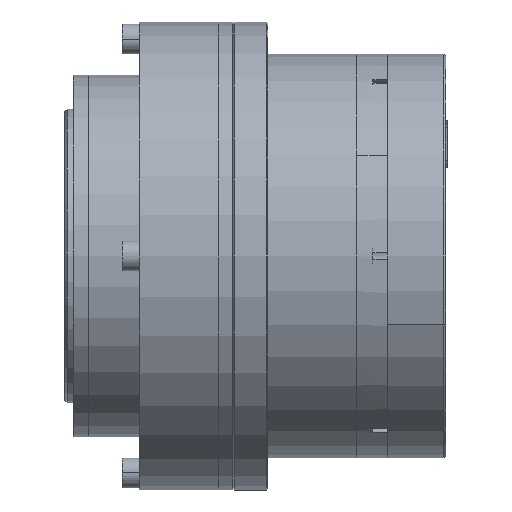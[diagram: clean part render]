
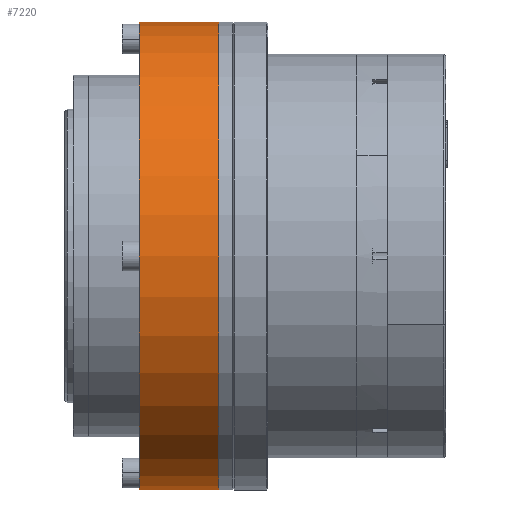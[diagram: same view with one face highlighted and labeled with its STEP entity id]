
A CAD part, left-side view. The second image highlights one B-rep face of the part: STEP entity #7220.
In plain terms, the highlighted cylindrical face has radius 55 mm (diameter 110 mm), a partial arc.
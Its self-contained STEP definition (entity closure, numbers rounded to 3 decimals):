
#303 = LINE ( 'NONE', #12526, #9774 ) ;
#1440 = VERTEX_POINT ( 'NONE', #4036 ) ;
#1902 = CARTESIAN_POINT ( 'NONE',  ( 0., 3.3, 0. ) ) ;
#2875 = VERTEX_POINT ( 'NONE', #16663 ) ;
#3567 = DIRECTION ( 'NONE',  ( 0., -1., 0. ) ) ;
#3738 = LINE ( 'NONE', #10111, #14930 ) ;
#4036 = CARTESIAN_POINT ( 'NONE',  ( 0., 22., -55. ) ) ;
#4870 = EDGE_CURVE ( 'NONE', #19630, #22094, #303, .T. ) ;
#5115 = CARTESIAN_POINT ( 'NONE',  ( 0., 22., 55. ) ) ;
#5122 = AXIS2_PLACEMENT_3D ( 'NONE', #11203, #5231, #13696 ) ;
#5231 = DIRECTION ( 'NONE',  ( 0., -1., 0. ) ) ;
#6079 = CARTESIAN_POINT ( 'NONE',  ( 0., 22., 0. ) ) ;
#7220 = ADVANCED_FACE ( 'NONE', ( #11751 ), #8982, .T. ) ;
#8982 = CYLINDRICAL_SURFACE ( 'NONE', #5122, 55. ) ;
#9774 = VECTOR ( 'NONE', #13072, 1000. ) ;
#9836 = CARTESIAN_POINT ( 'NONE',  ( 0., 3.3, 55. ) ) ;
#10111 = CARTESIAN_POINT ( 'NONE',  ( 0., 22., -55. ) ) ;
#10346 = CIRCLE ( 'NONE', #25877, 55. ) ;
#10776 = DIRECTION ( 'NONE',  ( 0., 1., 0. ) ) ;
#11203 = CARTESIAN_POINT ( 'NONE',  ( 0., 22., 0. ) ) ;
#11569 = EDGE_LOOP ( 'NONE', ( #20977, #17837, #13698, #17334 ) ) ;
#11751 = FACE_OUTER_BOUND ( 'NONE', #11569, .T. ) ;
#12452 = DIRECTION ( 'NONE',  ( 0., 0., 1. ) ) ;
#12526 = CARTESIAN_POINT ( 'NONE',  ( 0., 22., 55. ) ) ;
#13072 = DIRECTION ( 'NONE',  ( 0., -1., 0. ) ) ;
#13696 = DIRECTION ( 'NONE',  ( 0., 0., -1. ) ) ;
#13698 = ORIENTED_EDGE ( 'NONE', *, *, #18033, .T. ) ;
#14930 = VECTOR ( 'NONE', #18736, 1000. ) ;
#16119 = AXIS2_PLACEMENT_3D ( 'NONE', #6079, #10776, #12452 ) ;
#16663 = CARTESIAN_POINT ( 'NONE',  ( 0., 3.3, -55. ) ) ;
#17334 = ORIENTED_EDGE ( 'NONE', *, *, #18473, .F. ) ;
#17837 = ORIENTED_EDGE ( 'NONE', *, *, #26648, .F. ) ;
#18033 = EDGE_CURVE ( 'NONE', #1440, #2875, #3738, .T. ) ;
#18473 = EDGE_CURVE ( 'NONE', #22094, #2875, #10346, .T. ) ;
#18736 = DIRECTION ( 'NONE',  ( 0., -1., 0. ) ) ;
#19630 = VERTEX_POINT ( 'NONE', #5115 ) ;
#20977 = ORIENTED_EDGE ( 'NONE', *, *, #4870, .F. ) ;
#22094 = VERTEX_POINT ( 'NONE', #9836 ) ;
#25215 = DIRECTION ( 'NONE',  ( 0., 0., -1. ) ) ;
#25420 = CIRCLE ( 'NONE', #16119, 55. ) ;
#25877 = AXIS2_PLACEMENT_3D ( 'NONE', #1902, #3567, #25215 ) ;
#26648 = EDGE_CURVE ( 'NONE', #1440, #19630, #25420, .T. ) ;
